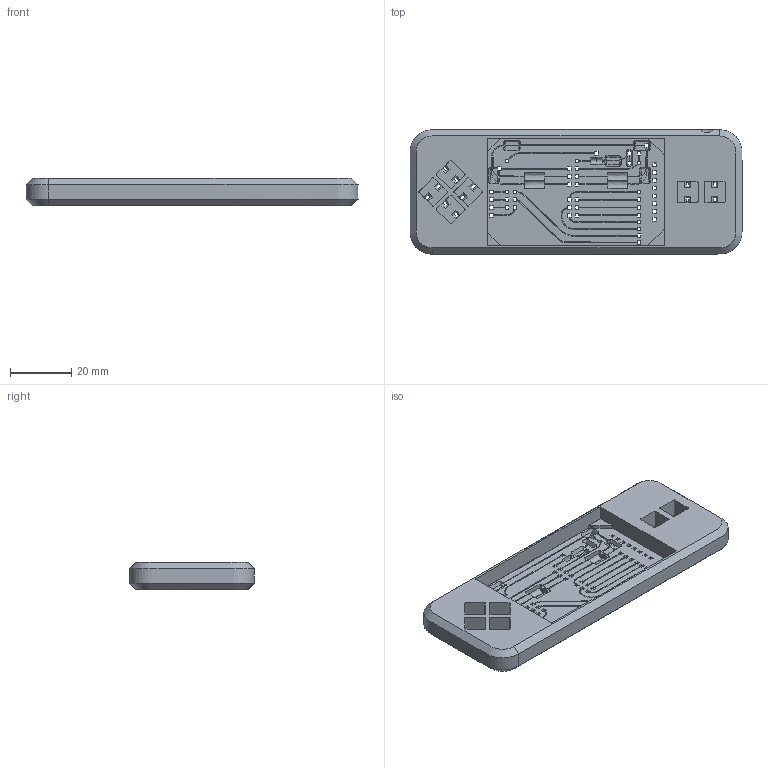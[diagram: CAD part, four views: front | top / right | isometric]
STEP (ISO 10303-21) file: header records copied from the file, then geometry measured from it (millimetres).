
FILE_DESCRIPTION(/* description */ (''),/* implementation_level */ '2;1');
FILE_NAME(/* name */ 'ChipChampMain',/* time_stamp */ '2023-05-05T18:44:43+02:00',/* author */ (''),/* organization */ (''),/* preprocessor_version */ 'ST-DEVELOPER v10',/* originating_system */ '',/* authorisation */ '');
FILE_SCHEMA (('CONFIG_CONTROL_DESIGN'));
Length unit declared in the file: millimetre
Products named in the file (1): 1
Bounding box: 108.58 x 40.64 x 8.89 mm (x, y, z)
Volume: 21646 mm3; surface area: 16304.7 mm2
Topology: 1 solids, 1 shells, 886 faces, 2635 edges, 1724 vertices
Faces by surface type: plane 526, bspline 360
Entity records: 46550 total; most frequent: CARTESIAN_POINT 29723, ORIENTED_EDGE 5270, EDGE_CURVE 2635, B_SPLINE_CURVE_WITH_KNOTS 2415, VERTEX_POINT 1724, EDGE_LOOP 981, ADVANCED_FACE 886, FACE_OUTER_BOUND 886
